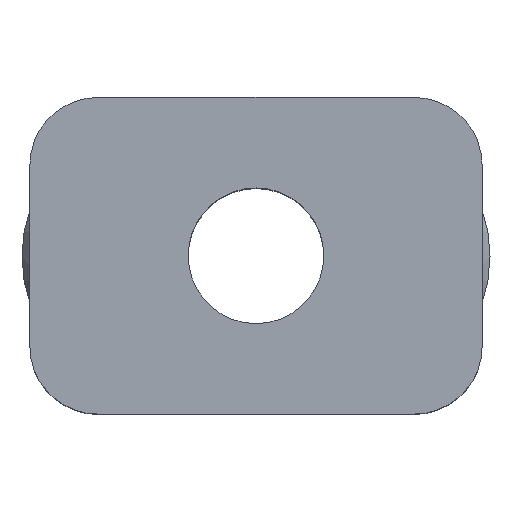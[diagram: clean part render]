
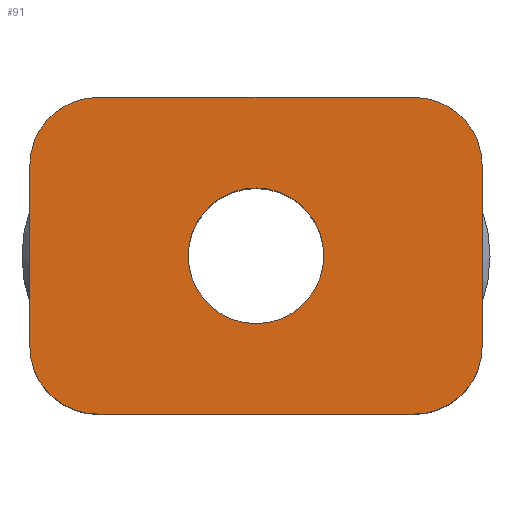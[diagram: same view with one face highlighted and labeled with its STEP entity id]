
A CAD part, top view. The second image highlights one B-rep face of the part: STEP entity #91.
In plain terms, the highlighted planar face has unit normal (0, 0, 1).
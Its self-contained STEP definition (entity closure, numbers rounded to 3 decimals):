
#91 = ADVANCED_FACE( '', ( #191, #192 ), #193, .T. );
#191 = FACE_BOUND( '', #302, .T. );
#192 = FACE_OUTER_BOUND( '', #303, .T. );
#193 = PLANE( '', #304 );
#302 = EDGE_LOOP( '', ( #475 ) );
#303 = EDGE_LOOP( '', ( #476, #477, #478, #479, #480, #481, #482, #483 ) );
#304 = AXIS2_PLACEMENT_3D( '', #484, #485, #486 );
#475 = ORIENTED_EDGE( '', *, *, #647, .F. );
#476 = ORIENTED_EDGE( '', *, *, #692, .T. );
#477 = ORIENTED_EDGE( '', *, *, #693, .T. );
#478 = ORIENTED_EDGE( '', *, *, #694, .T. );
#479 = ORIENTED_EDGE( '', *, *, #688, .T. );
#480 = ORIENTED_EDGE( '', *, *, #695, .T. );
#481 = ORIENTED_EDGE( '', *, *, #696, .T. );
#482 = ORIENTED_EDGE( '', *, *, #697, .T. );
#483 = ORIENTED_EDGE( '', *, *, #657, .T. );
#484 = CARTESIAN_POINT( '', ( -3.5, -2., 0. ) );
#485 = DIRECTION( '', ( 0., 0., 1. ) );
#486 = DIRECTION( '', ( 1., 0., 0. ) );
#647 = EDGE_CURVE( '', #760, #760, #761, .T. );
#657 = EDGE_CURVE( '', #773, #776, #778, .T. );
#688 = EDGE_CURVE( '', #821, #824, #826, .T. );
#692 = EDGE_CURVE( '', #776, #830, #831, .T. );
#693 = EDGE_CURVE( '', #830, #832, #833, .T. );
#694 = EDGE_CURVE( '', #832, #821, #834, .T. );
#695 = EDGE_CURVE( '', #824, #835, #836, .T. );
#696 = EDGE_CURVE( '', #835, #837, #838, .T. );
#697 = EDGE_CURVE( '', #837, #773, #839, .T. );
#760 = VERTEX_POINT( '', #913 );
#761 = CIRCLE( '', #914, 1.5 );
#773 = VERTEX_POINT( '', #926 );
#776 = VERTEX_POINT( '', #931 );
#778 = LINE( '', #934, #935 );
#821 = VERTEX_POINT( '', #988 );
#824 = VERTEX_POINT( '', #993 );
#826 = LINE( '', #996, #997 );
#830 = VERTEX_POINT( '', #1001 );
#831 = CIRCLE( '', #1002, 1.5 );
#832 = VERTEX_POINT( '', #1003 );
#833 = LINE( '', #1004, #1005 );
#834 = CIRCLE( '', #1006, 1.5 );
#835 = VERTEX_POINT( '', #1007 );
#836 = CIRCLE( '', #1008, 1.5 );
#837 = VERTEX_POINT( '', #1009 );
#838 = LINE( '', #1010, #1011 );
#839 = CIRCLE( '', #1012, 1.5 );
#913 = CARTESIAN_POINT( '', ( 1.5, 0., 0. ) );
#914 = AXIS2_PLACEMENT_3D( '', #1079, #1080, #1081 );
#926 = CARTESIAN_POINT( '', ( -5., 2., 0. ) );
#931 = CARTESIAN_POINT( '', ( -5., -2., 0. ) );
#934 = CARTESIAN_POINT( '', ( -5., 2., 0. ) );
#935 = VECTOR( '', #1097, 1000. );
#988 = CARTESIAN_POINT( '', ( 5., -2., 0. ) );
#993 = CARTESIAN_POINT( '', ( 5., 2., 0. ) );
#996 = CARTESIAN_POINT( '', ( 5., -2., 0. ) );
#997 = VECTOR( '', #1144, 1000. );
#1001 = CARTESIAN_POINT( '', ( -3.5, -3.5, 0. ) );
#1002 = AXIS2_PLACEMENT_3D( '', #1148, #1149, #1150 );
#1003 = CARTESIAN_POINT( '', ( 3.5, -3.5, 0. ) );
#1004 = CARTESIAN_POINT( '', ( -3.5, -3.5, 0. ) );
#1005 = VECTOR( '', #1151, 1000. );
#1006 = AXIS2_PLACEMENT_3D( '', #1152, #1153, #1154 );
#1007 = CARTESIAN_POINT( '', ( 3.5, 3.5, 0. ) );
#1008 = AXIS2_PLACEMENT_3D( '', #1155, #1156, #1157 );
#1009 = CARTESIAN_POINT( '', ( -3.5, 3.5, 0. ) );
#1010 = CARTESIAN_POINT( '', ( 3.5, 3.5, 0. ) );
#1011 = VECTOR( '', #1158, 1000. );
#1012 = AXIS2_PLACEMENT_3D( '', #1159, #1160, #1161 );
#1079 = CARTESIAN_POINT( '', ( 0., 0., 0. ) );
#1080 = DIRECTION( '', ( 0., 0., 1. ) );
#1081 = DIRECTION( '', ( 1., 0., 0. ) );
#1097 = DIRECTION( '', ( 0., -1., 0. ) );
#1144 = DIRECTION( '', ( 0., 1., 0. ) );
#1148 = CARTESIAN_POINT( '', ( -3.5, -2., 0. ) );
#1149 = DIRECTION( '', ( 0., 0., 1. ) );
#1150 = DIRECTION( '', ( 1., 0., 0. ) );
#1151 = DIRECTION( '', ( 1., 0., 0. ) );
#1152 = CARTESIAN_POINT( '', ( 3.5, -2., 0. ) );
#1153 = DIRECTION( '', ( 0., 0., 1. ) );
#1154 = DIRECTION( '', ( -1., 0., 0. ) );
#1155 = CARTESIAN_POINT( '', ( 3.5, 2., 0. ) );
#1156 = DIRECTION( '', ( 0., 0., 1. ) );
#1157 = DIRECTION( '', ( -1., 0., 0. ) );
#1158 = DIRECTION( '', ( -1., 0., 0. ) );
#1159 = CARTESIAN_POINT( '', ( -3.5, 2., 0. ) );
#1160 = DIRECTION( '', ( 0., 0., 1. ) );
#1161 = DIRECTION( '', ( 1., 0., 0. ) );
